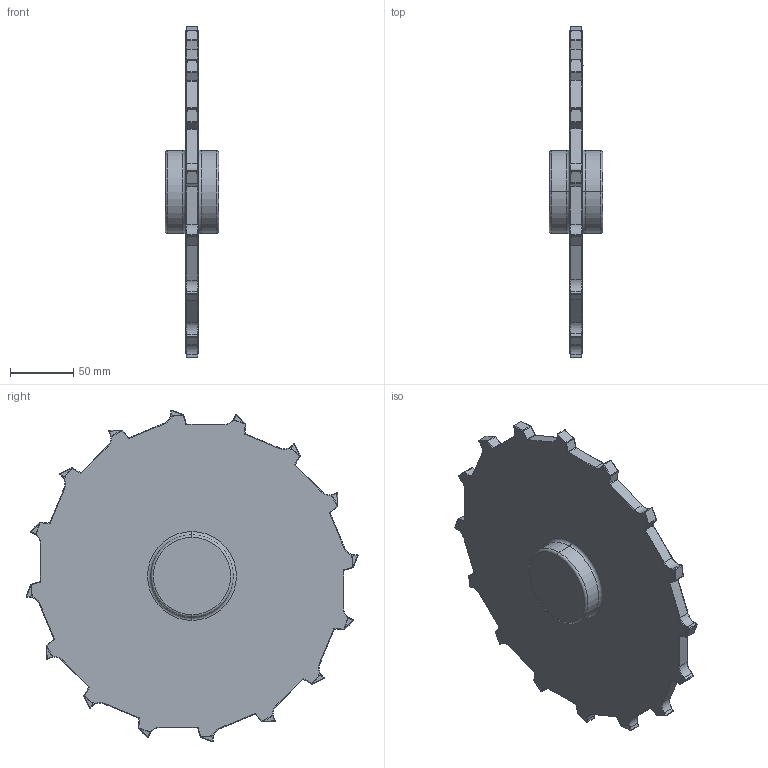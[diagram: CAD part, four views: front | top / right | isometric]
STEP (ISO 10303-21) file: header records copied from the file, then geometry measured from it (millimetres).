
FILE_DESCRIPTION((''),'2;1');
FILE_NAME('18Z16','2011-12-22T',('mth'),(''),'PRO/ENGINEER BY PARAMETRIC TECHNOLOGY CORPORATION, 2010280','PRO/ENGINEER BY PARAMETRIC TECHNOLOGY CORPORATION, 2010280','');
FILE_SCHEMA(('CONFIG_CONTROL_DESIGN','SHAPE_APPEARANCE_LAYERS_GROUPS'));
Length unit declared in the file: millimetre
Products named in the file (1): 18Z16
Bounding box: 42.3 x 261.76 x 261.76 mm (x, y, z)
Volume: 560668.7 mm3; surface area: 109992.4 mm2
Topology: 1 solids, 1 shells, 1052 faces, 2633 edges, 1613 vertices
Faces by surface type: plane 510, bspline 224, cylinder 148, torus 104, cone 34, sphere 32
Entity records: 44153 total; most frequent: CARTESIAN_POINT 12570, ORIENTED_EDGE 5262, DIRECTION 4441, PRESENTATION_STYLE_ASSIGNMENT 2632, STYLED_ITEM 2632, CURVE_STYLE 2631, EDGE_CURVE 2631, VERTEX_POINT 1613
